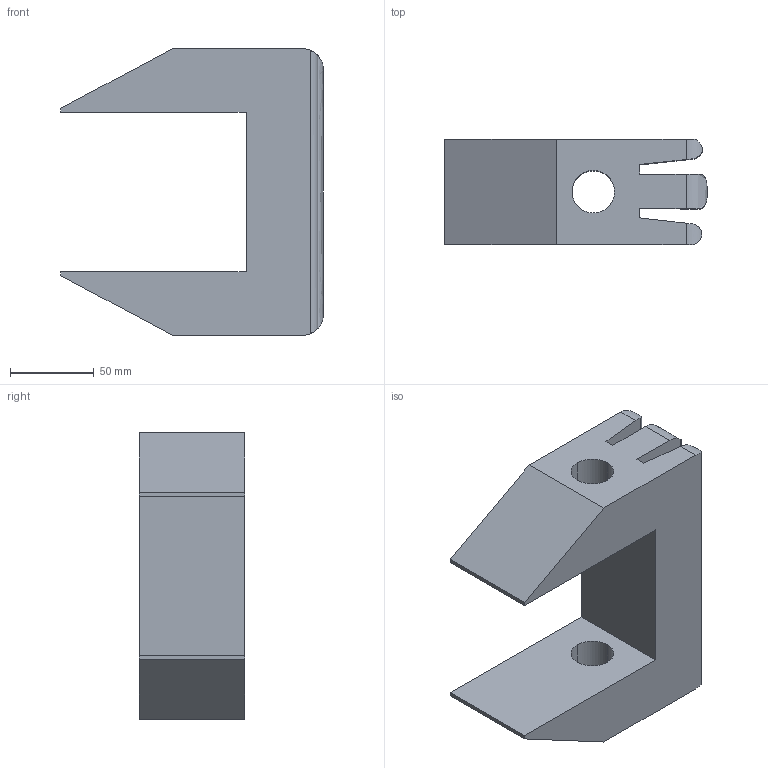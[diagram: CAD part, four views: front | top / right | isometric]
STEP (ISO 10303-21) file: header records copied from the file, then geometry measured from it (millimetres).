
FILE_DESCRIPTION(('TurboCAD Mac Pro'),'Build 980');
FILE_NAME('PLF9100.stp',' ',(''),(''),'ACIS Interop','IMSI','TurboCAD Mac Pro BY IMSI, INCORPORATED');
FILE_SCHEMA(('automotive_design'));
Length unit declared in the file: inch
Products named in the file (1): 1
Bounding box: 157.16 x 63.08 x 171.45 mm (x, y, z)
Volume: 712022.8 mm3; surface area: 104032.1 mm2
Topology: 1 solids, 1 shells, 37 faces, 105 edges, 70 vertices
Faces by surface type: bspline 20, plane 17
Entity records: 1744 total; most frequent: CARTESIAN_POINT 592, ORIENTED_EDGE 210, EDGE_CURVE 105, DIRECTION 100, VERTEX_POINT 70, LINE 64, VECTOR 64, EDGE_LOOP 41
